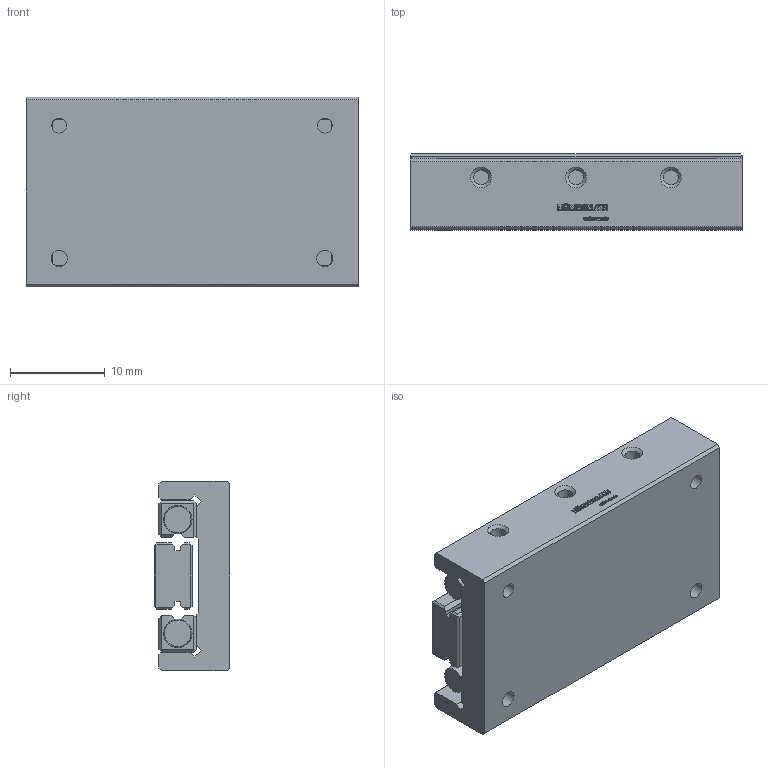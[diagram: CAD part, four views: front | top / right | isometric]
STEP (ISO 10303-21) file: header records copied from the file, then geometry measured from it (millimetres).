
FILE_DESCRIPTION(/* description */ ('STEP AP214'),/* implementation_level */ '2;1');
FILE_NAME(/* name */ 'ND 1-35.18(0)',/* time_stamp */ '2025-04-22T17:42:08+02:00',/* author */ ('License CC BY-ND 4.0'),/* organization */ ('CADENAS'),/* preprocessor_version */ 'ST-DEVELOPER v19.3',/* originating_system */ 'PARTsolutions',/* authorisation */ ' ');
FILE_SCHEMA (('AUTOMOTIVE_DESIGN {1 0 10303 214 3 1 1}'));
Length unit declared in the file: millimetre
Products named in the file (4): ND 1-35.18(0); ND 1-35.18+SQ+OF_(0)_1; ND 1-35.18+SQ+OF_(0)_2; ND 1-35.18+SQ+OF_(0)_3
Assembly tree (4 placements, depth 2):
  ND 1-35.18(0)
    ND 1-35.18+SQ+OF_(0)_1
    ND 1-35.18+SQ+OF_(0)_2
    ND 1-35.18+SQ+OF_(0)_3  x2
Bounding box: 35 x 8 x 20 mm (x, y, z)
Volume: 4562.3 mm3; surface area: 4670.9 mm2
Topology: 4 solids, 4 shells, 636 faces, 1763 edges, 1166 vertices
Faces by surface type: cylinder 320, plane 293, cone 19, torus 4
Full cylindrical faces by diameter (mm): 1.49 x4, 1.567 x5, 1.57 x6, 1.713 x2, 2.113 x3, 3 x6
Entity records: 19144 total; most frequent: DIRECTION 3453, CARTESIAN_POINT 3298, ORIENTED_EDGE 3226, EDGE_CURVE 1613, AXIS2_PLACEMENT_3D 1244, VERTEX_POINT 1089, LINE 965, VECTOR 965
